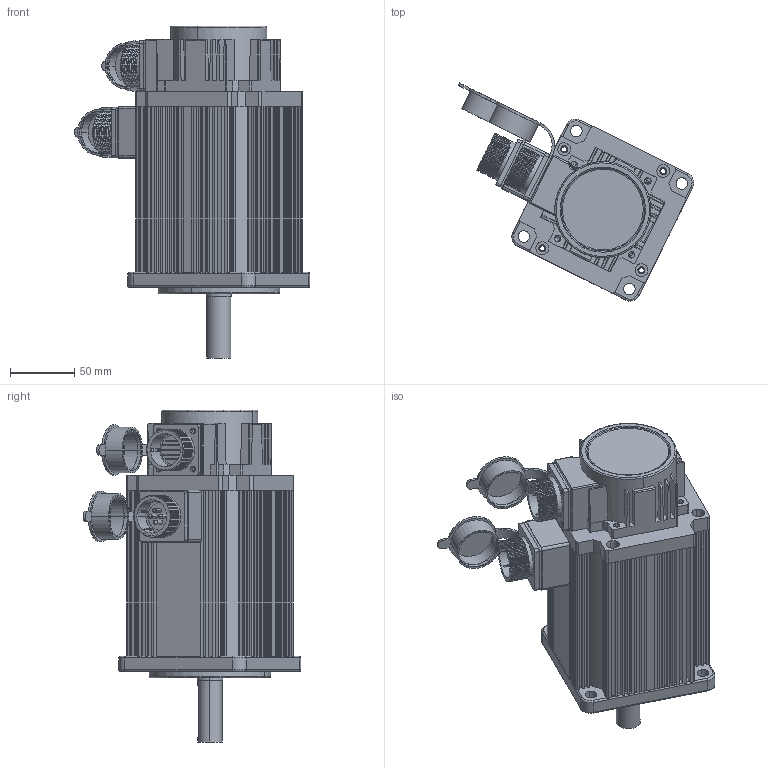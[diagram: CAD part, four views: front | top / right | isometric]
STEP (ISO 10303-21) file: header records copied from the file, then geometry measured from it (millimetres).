
FILE_DESCRIPTION (( 'STEP AP203' ), '1' );
FILE_NAME ('5N.M.STEP', '2018-11-27T03:27:40', ( '微软用户' ), ( '微软中国' ), 'SwSTEP 2.0', 'SolidWorks 2016', '' );
FILE_SCHEMA (( 'CONFIG_CONTROL_DESIGN' ));
Length unit declared in the file: millimetre
Products named in the file (13): 瑤脣々菜; 110 粣; 15郋瑤脣釱; 6304; 130瑤脣々菜; 110ヶ傷裔; 130 4郋瑤脣; 110儂褲; 5N.M; 110綴傷裔; 晤鎢ん欶; 130瑤脣價釱; 15郋瑤脣
Assembly tree (12 placements, depth 3):
  5N.M
    110 粣
    6304
    110ヶ傷裔
    110儂褲
    110綴傷裔
    晤鎢ん欶
    130瑤脣價釱
    15郋瑤脣釱
      15郋瑤脣
      瑤脣々菜
    130瑤脣々菜
    130 4郋瑤脣
Bounding box: 183.82 x 169.95 x 259 mm (x, y, z)
Volume: 703281.9 mm3; surface area: 359043.1 mm2
Topology: 12 solids, 12 shells, 1287 faces, 3442 edges, 2218 vertices
Faces by surface type: plane 599, cylinder 568, torus 53, sphere 36, cone 23, bspline 8
Entity records: 44921 total; most frequent: CARTESIAN_POINT 11321, DIRECTION 6796, ORIENTED_EDGE 6732, EDGE_CURVE 3366, AXIS2_PLACEMENT_3D 2441, VERTEX_POINT 2194, VECTOR 1914, LINE 1914
